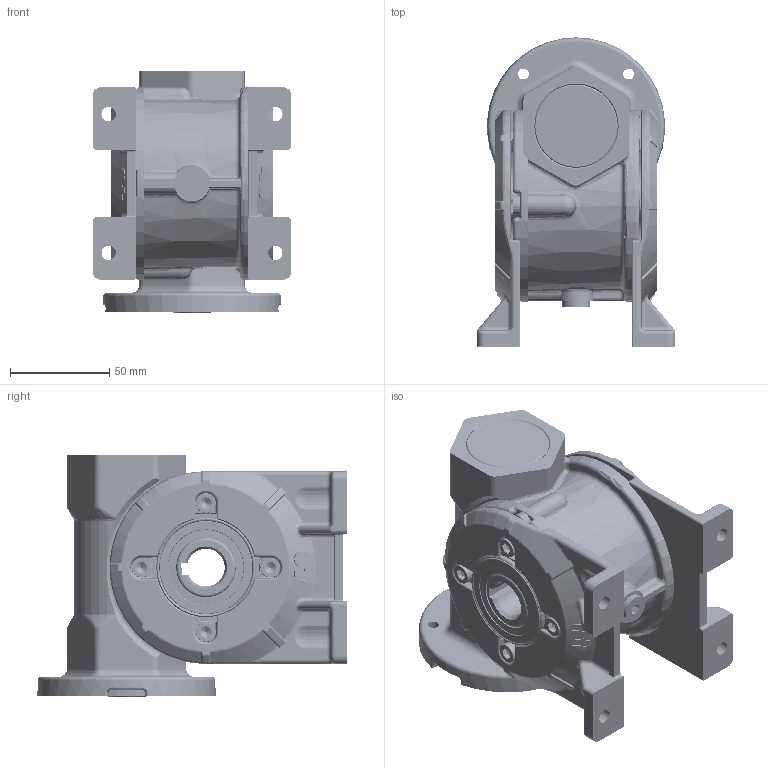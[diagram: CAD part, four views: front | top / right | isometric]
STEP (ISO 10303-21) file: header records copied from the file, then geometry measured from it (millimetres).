
FILE_DESCRIPTION (( 'STEP AP203' ), '1' );
FILE_NAME ('Sestava MRT40A-A.STEP', '2005-08-15T10:22:16', ( '' ), ( '' ), 'SwSTEP 2.0', 'SolidWorks 2004146', '' );
FILE_SCHEMA (( 'CONFIG_CONTROL_DESIGN' ));
Products named in the file (1): Sestava MRT40A-A
Bounding box: 100 x 156 x 122.5 mm (x, y, z)
Volume: 555011.9 mm3; surface area: 255509.9 mm2
Topology: 33 solids, 33 shells, 4082 faces, 9981 edges, 5696 vertices
Faces by surface type: torus 1022, cylinder 892, bspline 724, plane 634, cone 629, sphere 181
Entity records: 378884 total; most frequent: CARTESIAN_POINT 288701, DIRECTION 19124, ORIENTED_EDGE 19028, EDGE_CURVE 9514, AXIS2_PLACEMENT_3D 8504, VERTEX_POINT 5552, CIRCLE 5145, EDGE_LOOP 4300
